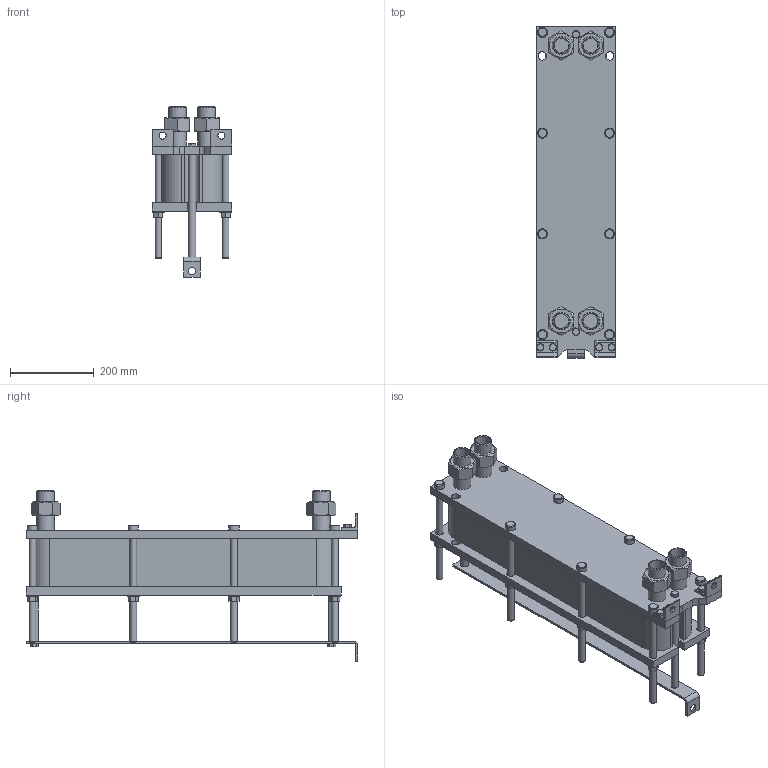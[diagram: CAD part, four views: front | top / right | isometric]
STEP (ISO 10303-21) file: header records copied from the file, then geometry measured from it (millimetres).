
FILE_DESCRIPTION(/* description */ (''),/* implementation_level */ '2;1');
FILE_NAME(/* name */ 'C:\Users\zhuro\Desktop\ENCO\TO\ЭН-008\ЭН-0,5-008-37-1.stp',/* time_stamp */ '2022-06-06T10:47:59+03:00',/* author */ ('zhuro'),/* organization */ (''),/* preprocessor_version */ 'ST-DEVELOPER v18.1',/* originating_system */ 'Autodesk Inventor 2022',/* authorisation */ '');
FILE_SCHEMA (('AUTOMOTIVE_DESIGN { 1 0 10303 214 3 1 1 }'));
Length unit declared in the file: millimetre
Products named in the file (1): ЭН-0,5-008-37-1
Bounding box: 190 x 790 x 406.6 mm (x, y, z)
Volume: 18397511.7 mm3; surface area: 1488618.5 mm2
Topology: 40 solids, 40 shells, 428 faces, 924 edges, 606 vertices
Faces by surface type: plane 273, cylinder 109, cone 40, torus 6
Full cylindrical faces by diameter (mm): 12 x6, 14 x2, 16 x20, 17 x8, 18 x19, 20 x5, 24 x8, 28 x8, 34.3 x8, 42.3 x8
Entity records: 15843 total; most frequent: CARTESIAN_POINT 5991, DIRECTION 1984, ORIENTED_EDGE 1848, EDGE_CURVE 924, AXIS2_PLACEMENT_3D 715, VERTEX_POINT 606, LINE 554, VECTOR 554
